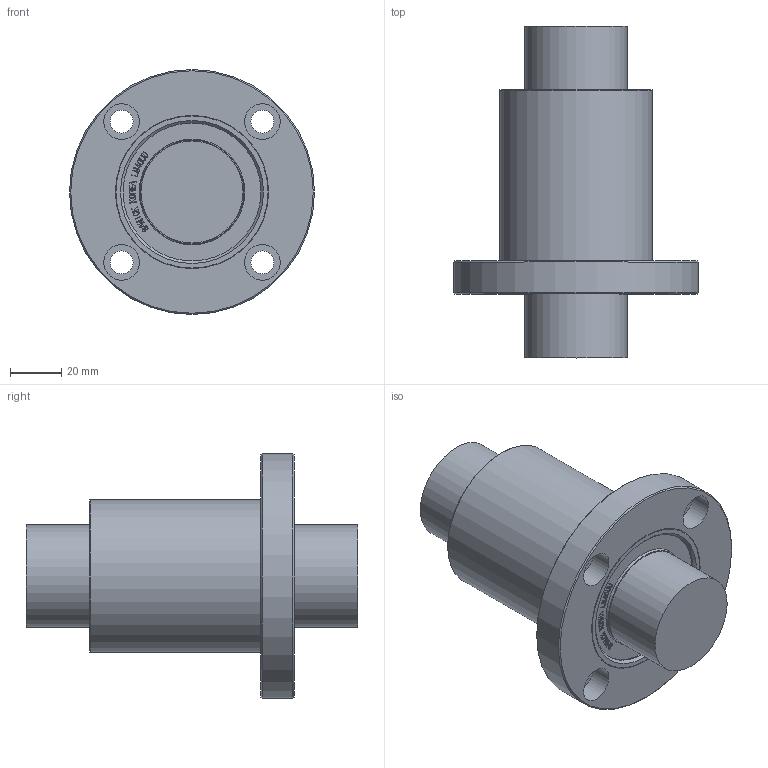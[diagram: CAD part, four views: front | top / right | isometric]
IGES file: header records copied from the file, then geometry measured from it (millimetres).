
Global section: file name: No Iges File Name specified; native system: Autodesk Inventor 2012; preprocessor: AutoDesk Inventor Iges Exporter R2012; author: user2; date: 20130206.160428; units: millimetre
Bounding box: 96 x 130 x 96 mm (x, y, z)
Volume: 336732.6 mm3; surface area: 39345.7 mm2
Topology: 1 solids, 1 shells, 837 faces, 2327 edges, 1550 vertices
Faces by surface type: bspline 572, plane 242, revolution 13, cone 4, cylinder 4, torus 2
Full cylindrical faces by diameter (mm): 40 x2, 60 x1, 96 x1
